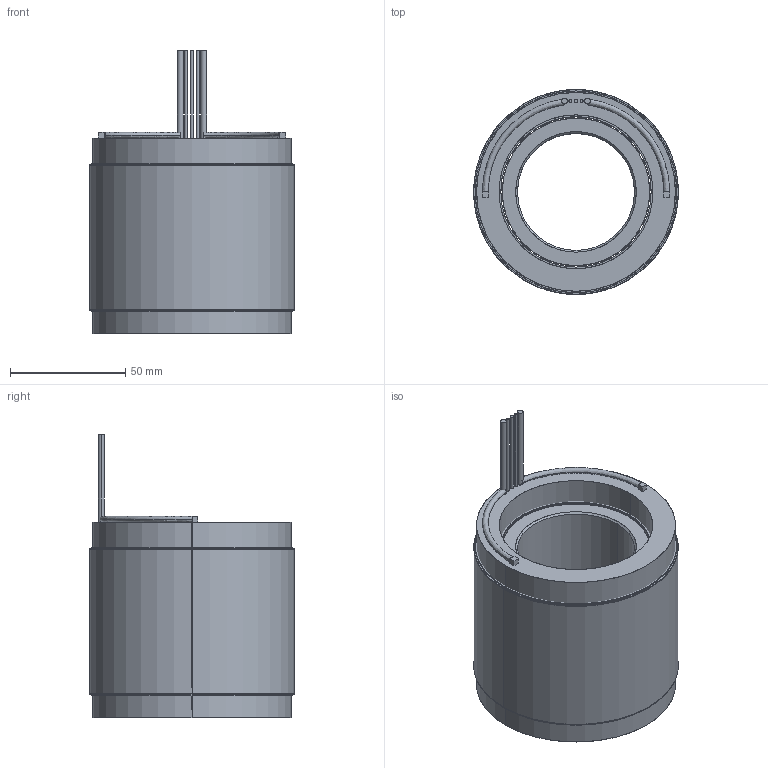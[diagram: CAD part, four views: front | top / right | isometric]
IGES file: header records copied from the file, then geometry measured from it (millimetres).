
Start section: SolidWorks IGES file using analytic representation for surfaces
Global section: file name: \\fs01.aveox.local\user documents\eng\My Documents\STANDARD STATOR ROTOR SETS\Standard rotor and stator set released\NEW DIRECT DRIVE MOTOR\3.5 OD 18S16P\6100378-04.IGS; native system: SolidWorks 2016; preprocessor: SolidWorks 2016; author: eng; date: 200623.085912; units: inch
Bounding box: 88.9 x 88.9 x 122.94 mm (x, y, z)
Surface area: 131884.2 mm2 (no closed solid volume)
Topology: 0 solids, 0 shells, 81 faces, 2376 edges, 2376 vertices
Faces by surface type: revolution 42, bspline 39
